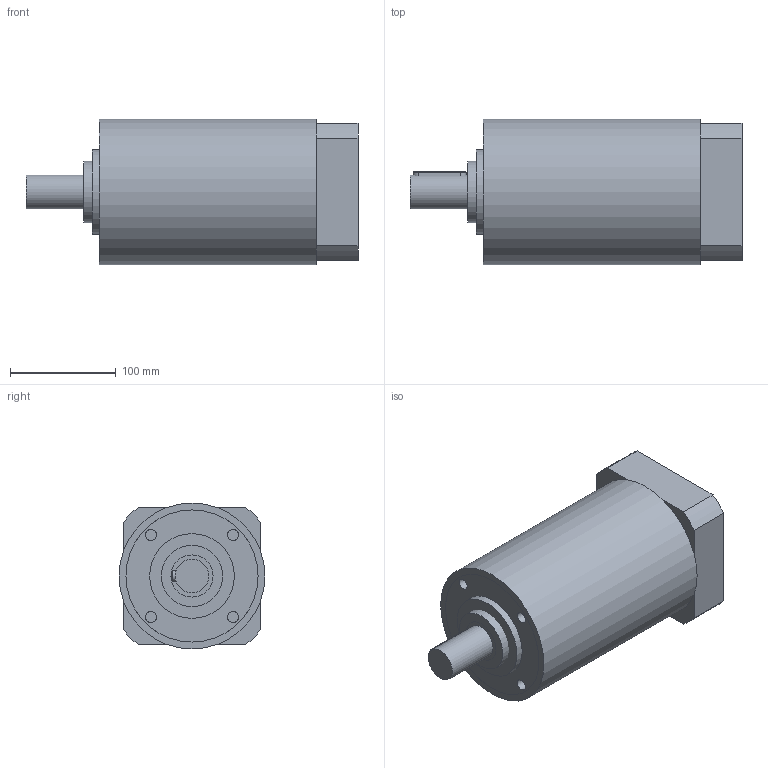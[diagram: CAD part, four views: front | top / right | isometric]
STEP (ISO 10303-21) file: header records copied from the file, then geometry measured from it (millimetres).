
FILE_DESCRIPTION(/* description */ (''),/* implementation_level */ '2;1');
FILE_NAME(/* name */ 'E0001806MP080708171539',/* time_stamp */ '2008-07-08T17:16:57+02:00',/* author */ (''),/* organization */ (''),/* preprocessor_version */ 'ST-DEVELOPER v9',/* originating_system */ 'EDS PLM SOLUTIONS - UNIGRAPHICS NX 2.0',/* authorisation */ '');
FILE_SCHEMA (('CONFIG_CONTROL_DESIGN'));
Length unit declared in the file: millimetre
Products named in the file (1): E0001806MP080708171539_u3d
Bounding box: 314 x 138 x 138 mm (x, y, z)
Volume: 4407461.6 mm3; surface area: 311010.2 mm2
Topology: 9 solids, 9 shells, 101 faces, 211 edges, 140 vertices
Faces by surface type: plane 46, cylinder 41, cone 12, torus 2
Full cylindrical faces by diameter (mm): 5.188 x1, 6.2 x1, 6.985 x5, 8.5 x1, 10.5 x1, 10.579 x4, 17.75 x1, 24 x1, 28 x1, 32 x1, 35 x1, 39.732 x1, 56 x1, 58 x1, 80 x1, 95 x1, 108.9 x1, 112.95 x1, 113 x1, 120.9 x1, 124.935 x1, 124.95 x1, 125 x1, 138 x1
Entity records: 2480 total; most frequent: CARTESIAN_POINT 443, DIRECTION 432, ORIENTED_EDGE 292, AXIS2_PLACEMENT_3D 187, EDGE_LOOP 164, EDGE_CURVE 146, VERTEX_POINT 124, FACE_BOUND 104
